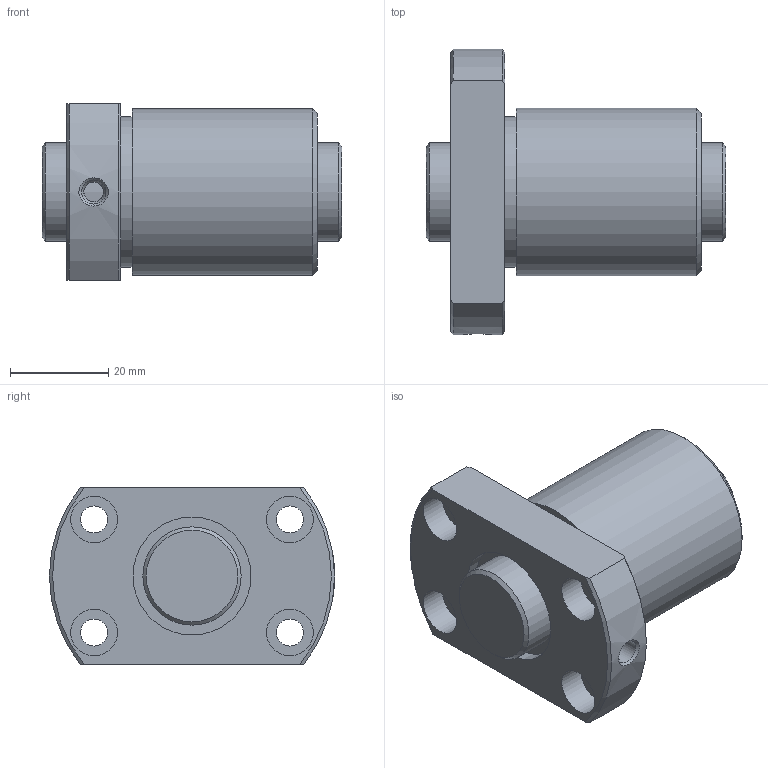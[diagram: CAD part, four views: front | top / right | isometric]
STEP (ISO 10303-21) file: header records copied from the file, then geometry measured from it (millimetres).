
FILE_DESCRIPTION(/* description */ ('STEP AP203'),/* implementation_level */ '2;1');
FILE_NAME(/* name */ 'DK2005-4RRG1+61LC0_000',/* time_stamp */ '2025-01-13T09:08:49+01:00',/* author */ ('License CC BY-ND 4.0'),/* organization */ ('CADENAS'),/* preprocessor_version */ 'ST-DEVELOPER v19.3',/* originating_system */ 'PARTsolutions',/* authorisation */ ' ');
FILE_SCHEMA (('CONFIG_CONTROL_DESIGN'));
Length unit declared in the file: millimetre
Products named in the file (3): DK2005-4RRG1+61LC0_000; DK 2005-4RR06100 Shaft; DK 2005-4RR0Nut
Assembly tree (2 placements, depth 2):
  DK2005-4RRG1+61LC0_000
    DK 2005-4RR06100 Shaft
    DK 2005-4RR0Nut
Bounding box: 61 x 58 x 36 mm (x, y, z)
Volume: 57266.1 mm3; surface area: 18340.2 mm2
Topology: 2 solids, 2 shells, 41 faces, 83 edges, 54 vertices
Faces by surface type: cylinder 18, plane 14, cone 9
Full cylindrical faces by diameter (mm): 4 x1, 4.917 x1, 5.5 x4, 9.5 x4, 20 x2, 24 x2, 30.6 x1, 34 x1
Entity records: 1087 total; most frequent: CARTESIAN_POINT 200, DIRECTION 180, ORIENTED_EDGE 120, AXIS2_PLACEMENT_3D 86, EDGE_LOOP 82, FACE_BOUND 82, EDGE_CURVE 60, VERTEX_POINT 52
